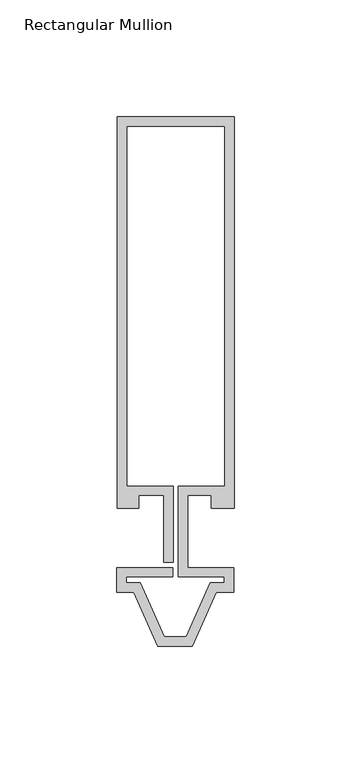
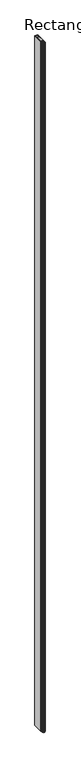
"""IFC4 building model written with IfcOpenShell, lengths in millimetres: member geometry, Rectangular Mullion : Reynaers_CW-50_Transom-Transom_Vertical_167.5mm_Facecap-04."""

from ifc_helpers import new_model, si_unit, frame, origin, place, context, project, spatial, polyline, outline, extrude, source, transform, mapped, element, save


def rectangular_mullion_e466530f(model_context):
    return source(origin(), model_context, "Body", "SweptSolid", [
        extrude(outline(polyline([(25.1995941, 12.7331291), (15.499, 12.7331291), (15.499, 18.1331291), (5.2995941, 18.1331291), (5.2995941, -12.7331291), (24.994845, -12.7331291), (24.994845, -23.3331291), (17.6543638, -23.3331291), (7.3695812, -46.4331291), (-7.3695812, -46.4331291), (-17.6543638, -23.3331291), (-24.994845, -23.3331291), (-24.994845, -12.7331291), (-1.0995941, -12.7331291), (-1.0995941, -16.7331291), (-20.994845, -16.7331291), (-20.994845, -19.3331291), (-15.0567334, -19.3331291), (-4.7719508, -42.4331291), (4.7719508, -42.4331291), (15.0567334, -19.3331291), (20.994845, -19.3331291), (20.994845, -16.7331291), (1.2995941, -16.7331291), (1.2995941, 22.1331291), (21.1995941, 22.1331291), (21.1995941, 176.2331291), (-20.8004059, 176.2331291), (-20.8004059, 22.1331291), (-0.9004059, 22.1331291), (-0.9004059, -10.5), (-4.9004059, -10.5), (-4.9004059, 18.1331291), (-15.499, 18.1331291), (-15.499, 12.7331291), (-24.8004059, 12.7331291), (-24.8004059, 180.2331291), (25.1995941, 180.2331291), (25.1995941, 12.7331291)])), frame((0.0, 0.0, -12000.0), z_axis=(0.0, 0.0, 1.0), x_axis=(1.0, 0.0, 0.0)), (0.0, 0.0, 1.0), 12000.0),
    ])


if __name__ == "__main__":
    model = new_model("IFC4")
    model_context = context("Model", 3, world=origin())
    ifc_project = project(units=[si_unit("LENGTHUNIT", "METRE", prefix="MILLI")], contexts=[model_context])
    site = spatial("IfcSite", under=ifc_project)
    building = spatial("IfcBuilding", under=site)
    placement = place(None, origin())
    rectangular_mullion_shape = rectangular_mullion_e466530f(model_context)
    element("IfcMember", 1, ObjectType="Rectangular Mullion : Reynaers_CW-50_Transom-Transom_Vertical_167.5mm_Facecap-04", at=placement, inside=building, context=model_context, shape_type="MappedRepresentation", body=[
        mapped(rectangular_mullion_shape, transform((0.0, 0.0, 0.0), x_axis=(1.0, 0.0, 0.0), y_axis=(0.0, 1.0, 0.0), z_axis=(0.0, 0.0, 1.0))),
    ])
    save(model, "model.ifc")
